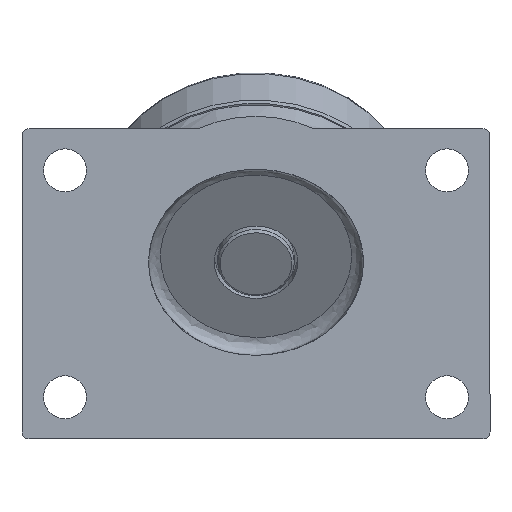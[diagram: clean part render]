
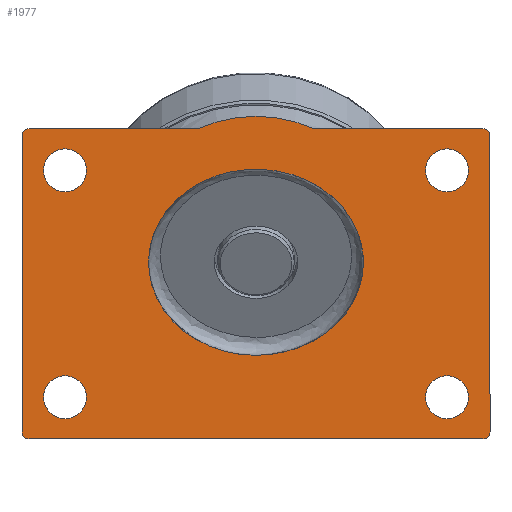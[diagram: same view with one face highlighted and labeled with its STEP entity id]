
A CAD part, front view. The second image highlights one B-rep face of the part: STEP entity #1977.
In plain terms, the highlighted planar face has unit normal (0, -1, 0) as drawn and (0, 0, -1) by its records, which use the part's own axes.
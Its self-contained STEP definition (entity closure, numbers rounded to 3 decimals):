
#36=ELLIPSE('',#2234,45.,38.971);
#44=ELLIPSE('',#2288,77.942,67.5);
#236=FACE_BOUND('',#514,.T.);
#237=FACE_BOUND('',#515,.T.);
#238=FACE_BOUND('',#516,.T.);
#239=FACE_BOUND('',#517,.T.);
#240=FACE_BOUND('',#518,.T.);
#270=PLANE('',#2285);
#364=FACE_OUTER_BOUND('',#513,.T.);
#513=EDGE_LOOP('',(#1633,#1634,#1635,#1636,#1637,#1638,#1639,#1640,#1641,
#1642));
#514=EDGE_LOOP('',(#1643));
#515=EDGE_LOOP('',(#1644));
#516=EDGE_LOOP('',(#1645));
#517=EDGE_LOOP('',(#1646));
#518=EDGE_LOOP('',(#1647));
#619=LINE('',#3737,#699);
#620=LINE('',#3741,#700);
#621=LINE('',#3745,#701);
#622=LINE('',#3749,#702);
#623=LINE('',#3752,#703);
#699=VECTOR('',#2796,124.);
#700=VECTOR('',#2799,70.869);
#701=VECTOR('',#2802,70.869);
#702=VECTOR('',#2805,124.);
#703=VECTOR('',#2808,190.);
#844=CIRCLE('',#2286,3.);
#845=CIRCLE('',#2287,3.);
#846=CIRCLE('',#2289,3.);
#847=CIRCLE('',#2290,3.);
#848=CIRCLE('',#2291,9.);
#849=CIRCLE('',#2292,9.);
#850=CIRCLE('',#2293,9.);
#851=CIRCLE('',#2294,9.);
#956=VERTEX_POINT('',#3465);
#998=VERTEX_POINT('',#3733);
#999=VERTEX_POINT('',#3734);
#1000=VERTEX_POINT('',#3736);
#1001=VERTEX_POINT('',#3738);
#1002=VERTEX_POINT('',#3740);
#1003=VERTEX_POINT('',#3742);
#1004=VERTEX_POINT('',#3744);
#1005=VERTEX_POINT('',#3746);
#1006=VERTEX_POINT('',#3748);
#1007=VERTEX_POINT('',#3750);
#1008=VERTEX_POINT('',#3753);
#1009=VERTEX_POINT('',#3755);
#1010=VERTEX_POINT('',#3757);
#1011=VERTEX_POINT('',#3759);
#1163=EDGE_CURVE('',#956,#956,#36,.T.);
#1223=EDGE_CURVE('',#998,#999,#844,.T.);
#1224=EDGE_CURVE('',#998,#1000,#619,.T.);
#1225=EDGE_CURVE('',#1001,#1000,#845,.T.);
#1226=EDGE_CURVE('',#1001,#1002,#620,.T.);
#1227=EDGE_CURVE('',#1003,#1002,#44,.T.);
#1228=EDGE_CURVE('',#1003,#1004,#621,.T.);
#1229=EDGE_CURVE('',#1005,#1004,#846,.T.);
#1230=EDGE_CURVE('',#1005,#1006,#622,.T.);
#1231=EDGE_CURVE('',#1007,#1006,#847,.T.);
#1232=EDGE_CURVE('',#1007,#999,#623,.T.);
#1233=EDGE_CURVE('',#1008,#1008,#848,.T.);
#1234=EDGE_CURVE('',#1009,#1009,#849,.T.);
#1235=EDGE_CURVE('',#1010,#1010,#850,.T.);
#1236=EDGE_CURVE('',#1011,#1011,#851,.T.);
#1633=ORIENTED_EDGE('',*,*,#1223,.F.);
#1634=ORIENTED_EDGE('',*,*,#1224,.T.);
#1635=ORIENTED_EDGE('',*,*,#1225,.F.);
#1636=ORIENTED_EDGE('',*,*,#1226,.T.);
#1637=ORIENTED_EDGE('',*,*,#1227,.F.);
#1638=ORIENTED_EDGE('',*,*,#1228,.T.);
#1639=ORIENTED_EDGE('',*,*,#1229,.F.);
#1640=ORIENTED_EDGE('',*,*,#1230,.T.);
#1641=ORIENTED_EDGE('',*,*,#1231,.F.);
#1642=ORIENTED_EDGE('',*,*,#1232,.T.);
#1643=ORIENTED_EDGE('',*,*,#1163,.T.);
#1644=ORIENTED_EDGE('',*,*,#1233,.T.);
#1645=ORIENTED_EDGE('',*,*,#1234,.T.);
#1646=ORIENTED_EDGE('',*,*,#1235,.T.);
#1647=ORIENTED_EDGE('',*,*,#1236,.T.);
#1977=ADVANCED_FACE('',(#364,#236,#237,#238,#239,#240),#270,.T.);
#2234=AXIS2_PLACEMENT_3D('',#3466,#2673,#2674);
#2285=AXIS2_PLACEMENT_3D('',#3732,#2792,#2793);
#2286=AXIS2_PLACEMENT_3D('',#3735,#2794,#2795);
#2287=AXIS2_PLACEMENT_3D('',#3739,#2797,#2798);
#2288=AXIS2_PLACEMENT_3D('',#3743,#2800,#2801);
#2289=AXIS2_PLACEMENT_3D('',#3747,#2803,#2804);
#2290=AXIS2_PLACEMENT_3D('',#3751,#2806,#2807);
#2291=AXIS2_PLACEMENT_3D('',#3754,#2809,#2810);
#2292=AXIS2_PLACEMENT_3D('',#3756,#2811,#2812);
#2293=AXIS2_PLACEMENT_3D('',#3758,#2813,#2814);
#2294=AXIS2_PLACEMENT_3D('',#3760,#2815,#2816);
#2673=DIRECTION('center_axis',(0.,0.,1.));
#2674=DIRECTION('ref_axis',(-1.,0.,0.));
#2792=DIRECTION('center_axis',(0.,0.,-1.));
#2793=DIRECTION('ref_axis',(0.,1.,0.));
#2794=DIRECTION('center_axis',(0.,0.,1.));
#2795=DIRECTION('ref_axis',(0.707,0.707,0.));
#2796=DIRECTION('',(0.,-1.,0.));
#2797=DIRECTION('center_axis',(0.,0.,1.));
#2798=DIRECTION('ref_axis',(0.707,-0.707,0.));
#2799=DIRECTION('',(-1.,0.,0.));
#2800=DIRECTION('center_axis',(0.,0.,
1.));
#2801=DIRECTION('ref_axis',(0.,1.,0.));
#2802=DIRECTION('',(-1.,0.,0.));
#2803=DIRECTION('center_axis',(0.,0.,1.));
#2804=DIRECTION('ref_axis',(-0.707,-0.707,0.));
#2805=DIRECTION('',(0.,1.,0.));
#2806=DIRECTION('center_axis',(0.,0.,1.));
#2807=DIRECTION('ref_axis',(-0.707,0.707,0.));
#2808=DIRECTION('',(1.,0.,0.));
#2809=DIRECTION('center_axis',(0.,0.,1.));
#2810=DIRECTION('ref_axis',(1.,0.,0.));
#2811=DIRECTION('center_axis',(0.,0.,1.));
#2812=DIRECTION('ref_axis',(1.,0.,0.));
#2813=DIRECTION('center_axis',(0.,0.,1.));
#2814=DIRECTION('ref_axis',(1.,0.,0.));
#2815=DIRECTION('center_axis',(0.,0.,1.));
#2816=DIRECTION('ref_axis',(1.,0.,0.));
#3465=CARTESIAN_POINT('',(45.,14.,0.));
#3466=CARTESIAN_POINT('Origin',(0.,14.,0.));
#3732=CARTESIAN_POINT('Origin',(0.,23.01,0.));
#3733=CARTESIAN_POINT('',(98.,85.01,0.));
#3734=CARTESIAN_POINT('',(95.,88.01,0.));
#3735=CARTESIAN_POINT('Origin',(95.,85.01,0.));
#3736=CARTESIAN_POINT('',(98.,-38.99,0.));
#3737=CARTESIAN_POINT('',(98.,88.01,0.));
#3738=CARTESIAN_POINT('',(95.,-41.99,0.));
#3739=CARTESIAN_POINT('Origin',(95.,-38.99,0.));
#3740=CARTESIAN_POINT('',(24.131,-41.99,0.));
#3741=CARTESIAN_POINT('',(98.,-41.99,0.));
#3742=CARTESIAN_POINT('',(-24.131,-41.99,0.));
#3743=CARTESIAN_POINT('Origin',(0.,30.802,0.));
#3744=CARTESIAN_POINT('',(-95.,-41.99,0.));
#3745=CARTESIAN_POINT('',(98.,-41.99,0.));
#3746=CARTESIAN_POINT('',(-98.,-38.99,0.));
#3747=CARTESIAN_POINT('Origin',(-95.,-38.99,0.));
#3748=CARTESIAN_POINT('',(-98.,85.01,0.));
#3749=CARTESIAN_POINT('',(-98.,-41.99,0.));
#3750=CARTESIAN_POINT('',(-95.,88.01,0.));
#3751=CARTESIAN_POINT('Origin',(-95.,85.01,0.));
#3752=CARTESIAN_POINT('',(-98.,88.01,0.));
#3753=CARTESIAN_POINT('',(-89.,-24.49,0.));
#3754=CARTESIAN_POINT('Origin',(-80.,-24.49,0.));
#3755=CARTESIAN_POINT('',(71.,70.51,0.));
#3756=CARTESIAN_POINT('Origin',(80.,70.51,0.));
#3757=CARTESIAN_POINT('',(-89.,70.51,0.));
#3758=CARTESIAN_POINT('Origin',(-80.,70.51,0.));
#3759=CARTESIAN_POINT('',(71.,-24.49,0.));
#3760=CARTESIAN_POINT('Origin',(80.,-24.49,0.));
